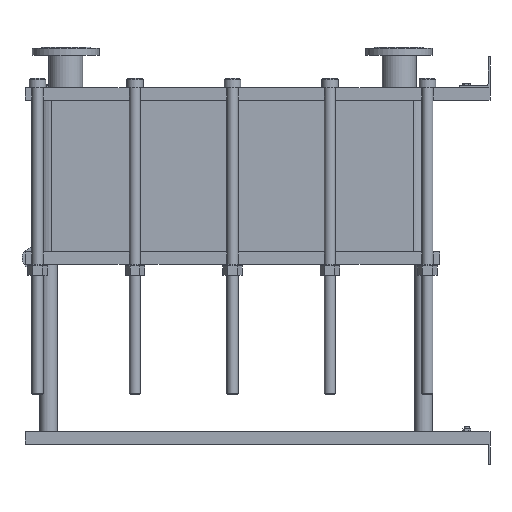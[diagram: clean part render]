
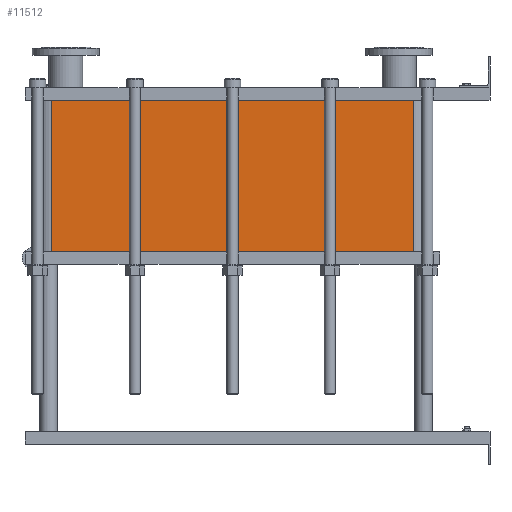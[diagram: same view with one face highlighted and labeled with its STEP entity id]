
A CAD part, left-side view. The second image highlights one B-rep face of the part: STEP entity #11512.
In plain terms, the highlighted planar face has unit normal (-1, 0, 0).
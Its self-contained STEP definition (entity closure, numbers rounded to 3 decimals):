
#1129=LINE('',#23232,#2102);
#1130=LINE('',#23236,#2103);
#1131=LINE('',#23238,#2104);
#1132=LINE('',#23239,#2105);
#2102=VECTOR('',#15887,10.);
#2103=VECTOR('',#15892,10.);
#2104=VECTOR('',#15893,10.);
#2105=VECTOR('',#15894,10.);
#3267=FACE_OUTER_BOUND('',#4093,.T.);
#4093=EDGE_LOOP('',(#10103,#10104,#10105,#10106));
#5642=VERTEX_POINT('',#23229);
#5643=VERTEX_POINT('',#23231);
#5644=VERTEX_POINT('',#23235);
#5645=VERTEX_POINT('',#23237);
#7159=EDGE_CURVE('',#5643,#5642,#1129,.T.);
#7161=EDGE_CURVE('',#5642,#5644,#1130,.T.);
#7162=EDGE_CURVE('',#5645,#5644,#1131,.T.);
#7163=EDGE_CURVE('',#5645,#5643,#1132,.T.);
#10103=ORIENTED_EDGE('',*,*,#7161,.T.);
#10104=ORIENTED_EDGE('',*,*,#7162,.F.);
#10105=ORIENTED_EDGE('',*,*,#7163,.T.);
#10106=ORIENTED_EDGE('',*,*,#7159,.T.);
#10857=PLANE('',#12751);
#11512=ADVANCED_FACE('',(#3267),#10857,.T.);
#12751=AXIS2_PLACEMENT_3D('',#23234,#15890,#15891);
#15887=DIRECTION('',(0.,0.,-1.));
#15890=DIRECTION('center_axis',(-1.,0.,0.));
#15891=DIRECTION('ref_axis',(0.,1.,0.));
#15892=DIRECTION('',(0.,-1.,0.));
#15893=DIRECTION('',(0.,0.,-1.));
#15894=DIRECTION('',(0.,1.,0.));
#23229=CARTESIAN_POINT('',(-200.,1414.,-489.9));
#23231=CARTESIAN_POINT('',(-200.,1414.,0.));
#23232=CARTESIAN_POINT('',(-200.,1414.,0.));
#23234=CARTESIAN_POINT('Origin',(-200.,248.,0.));
#23235=CARTESIAN_POINT('',(-200.,248.,-489.9));
#23236=CARTESIAN_POINT('',(-200.,539.5,-489.9));
#23237=CARTESIAN_POINT('',(-200.,248.,0.));
#23238=CARTESIAN_POINT('',(-200.,248.,0.));
#23239=CARTESIAN_POINT('',(-200.,248.,0.));
